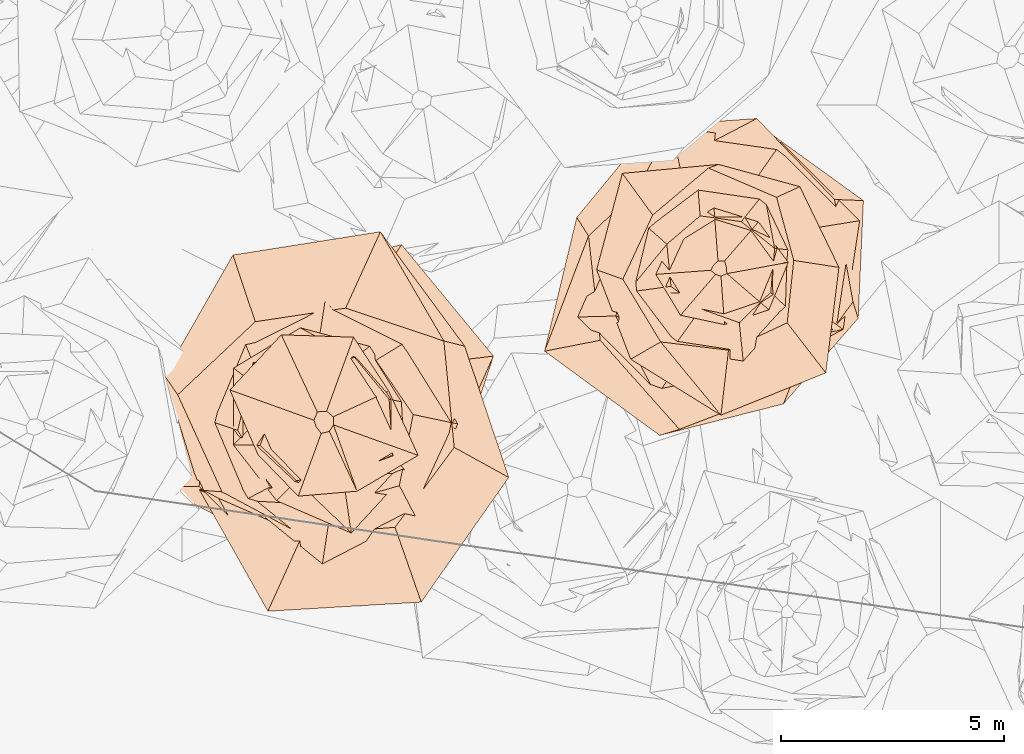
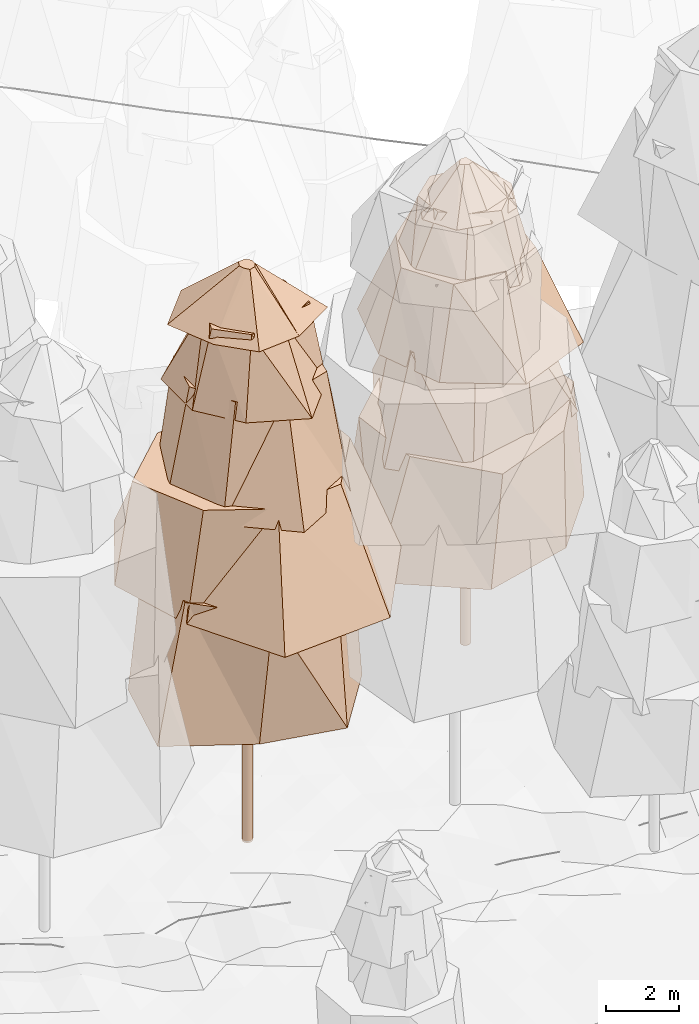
# Not in any storey, part 66 of 88: 2 geographic elements.
"""IFC4 model written with IfcOpenShell, lengths in metres."""

from ifc_helpers import new_model, si_unit, frame, origin_with_axes, place, context, subcontext, project, spatial, circle, extrude, faceted_brep, element, save


model = new_model("IFC4")

# Units and contexts
model_context = context("Model", 3, precision=1e-05, world=origin_with_axes())
body_context = subcontext(model_context, "Body", "Model", "MODEL_VIEW")
ifc_project = project(units=[si_unit("LENGTHUNIT", "METRE"), si_unit("AREAUNIT", "SQUARE_METRE"), si_unit("VOLUMEUNIT", "CUBIC_METRE"), si_unit("PLANEANGLEUNIT", "RADIAN")], contexts=[model_context])

# Sites
site_1_placement = place(None, origin_with_axes())
site_1 = spatial("IfcSite", under=ifc_project, at=site_1_placement, Name="CH907857693633", CompositionType="ELEMENT")
site_2_placement = place(None, origin_with_axes())
site_2 = spatial("IfcSite", under=site_1, at=site_2_placement, Name="Simulated_forest", CompositionType="ELEMENT")

# Geographic elements
geographic_element_1_placement = place(None, frame((201.179847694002, 78.1168843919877, 2.742919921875), z_axis=(0.0, 0.0, 1.0), x_axis=(1.0, 0.0, 0.0)))
element("IfcGeographicElement", 1, at=geographic_element_1_placement, inside=site_2, Name="Tree_SIMULATED_FOREST_DENSE", ObjectType="VEGETATION", PredefinedType="USERDEFINED", context=body_context, shape_type="Brep", body=[
    extrude(circle(Radius=0.15), origin_with_axes(), (0.0, 0.0, 1.0), 5.25416549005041),
    faceted_brep([(2.88930138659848, -1.2622847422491, 5.25416549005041), (1.27665318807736, -3.2575792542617, 5.25416549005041), (-1.18957228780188, -2.72286651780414, 5.25416549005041), (-3.65866102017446, -1.43383810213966, 5.25416549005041), (-3.0038033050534, 1.31230860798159, 5.25416549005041), (-1.2767242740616, 3.25776064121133, 5.25416549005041), (1.74221894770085, 3.98784478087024, 5.25416549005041), (3.80084577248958, 1.4895606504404, 5.25416549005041), (2.63065394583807, 1.34790703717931, 9.75740523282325), (0.850775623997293, 2.6387611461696, 9.75740523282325), (-1.45786809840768, 2.84526036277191, 9.75740523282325), (-2.62390468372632, 0.845985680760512, 9.75740523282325), (-2.79472631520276, -1.43197522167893, 9.75740523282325), (-1.02748168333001, -3.18683171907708, 9.75740523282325), (1.32399717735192, -2.58399006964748, 9.75740523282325), (2.73474883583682, -0.88172347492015, 9.75740523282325), (3.80084577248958, 1.4895606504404, 5.25416549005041), (1.74221894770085, 3.98784478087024, 5.25416549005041), (0.850775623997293, 2.6387611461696, 9.75740523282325), (2.63065394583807, 1.34790703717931, 9.75740523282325), (1.74221894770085, 3.98784478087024, 5.25416549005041), (-1.2767242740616, 3.25776064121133, 5.25416549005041), (-1.45786809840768, 2.84526036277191, 9.75740523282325), (0.850775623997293, 2.6387611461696, 9.75740523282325), (-1.2767242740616, 3.25776064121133, 5.25416549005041), (-3.0038033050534, 1.31230860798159, 5.25416549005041), (-2.62390468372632, 0.845985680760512, 9.75740523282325), (-1.45786809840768, 2.84526036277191, 9.75740523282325), (-3.0038033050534, 1.31230860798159, 5.25416549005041), (-3.65866102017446, -1.43383810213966, 5.25416549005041), (-2.79472631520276, -1.43197522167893, 9.75740523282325), (-2.62390468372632, 0.845985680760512, 9.75740523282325), (-3.65866102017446, -1.43383810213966, 5.25416549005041), (-1.18957228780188, -2.72286651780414, 5.25416549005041), (-1.02748168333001, -3.18683171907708, 9.75740523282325), (-2.79472631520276, -1.43197522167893, 9.75740523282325), (-1.18957228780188, -2.72286651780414, 5.25416549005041), (1.27665318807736, -3.2575792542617, 5.25416549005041), (1.32399717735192, -2.58399006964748, 9.75740523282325), (-1.02748168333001, -3.18683171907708, 9.75740523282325), (1.27665318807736, -3.2575792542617, 5.25416549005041), (2.88930138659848, -1.2622847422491, 5.25416549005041), (2.73474883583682, -0.88172347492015, 9.75740523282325), (1.32399717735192, -2.58399006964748, 9.75740523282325), (2.88930138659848, -1.2622847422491, 5.25416549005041), (3.80084577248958, 1.4895606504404, 5.25416549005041), (2.63065394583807, 1.34790703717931, 9.75740523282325), (2.73474883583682, -0.88172347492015, 9.75740523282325)], [[[0, 1, 2, 3, 4, 5, 6, 7]], [[8, 9, 10, 11, 12, 13, 14, 15]], [[16, 17, 18, 19]], [[20, 21, 22, 23]], [[24, 25, 26, 27]], [[28, 29, 30, 31]], [[32, 33, 34, 35]], [[36, 37, 38, 39]], [[40, 41, 42, 43]], [[44, 45, 46, 47]]]),
    faceted_brep([(4.14327498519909, -1.2285407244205, 9.08191927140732), (2.18288452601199, -4.02302657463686, 9.08191927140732), (-1.25346766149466, -4.2273415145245, 9.08191927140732), (-2.78552122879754, -1.51141710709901, 9.08191927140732), (-3.57466870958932, 1.05994077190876, 9.08191927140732), (-2.03727449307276, 3.75466925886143, 9.08191927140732), (1.26794778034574, 4.27617596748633, 9.08191927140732), (3.15534077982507, 1.71208030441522, 9.08191927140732), (2.68954318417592, 1.82875391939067, 12.7252094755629), (0.488621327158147, 2.5647814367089, 12.7252094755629), (-1.53682580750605, 2.26020534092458, 12.7252094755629), (-3.27516149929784, 0.62395716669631, 12.7252094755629), (-2.28287551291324, -1.55224038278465, 12.7252094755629), (-0.479777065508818, -2.51835776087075, 12.7252094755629), (1.59527243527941, -2.34616263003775, 12.7252094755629), (2.92068107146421, -0.556424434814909, 12.7252094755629), (3.15534077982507, 1.71208030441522, 9.08191927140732), (1.26794778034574, 4.27617596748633, 9.08191927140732), (0.488621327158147, 2.5647814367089, 12.7252094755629), (2.68954318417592, 1.82875391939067, 12.7252094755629), (1.26794778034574, 4.27617596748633, 9.08191927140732), (-2.03727449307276, 3.75466925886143, 9.08191927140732), (-1.53682580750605, 2.26020534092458, 12.7252094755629), (0.488621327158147, 2.5647814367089, 12.7252094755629), (-2.03727449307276, 3.75466925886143, 9.08191927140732), (-3.57466870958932, 1.05994077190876, 9.08191927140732), (-3.27516149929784, 0.62395716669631, 12.7252094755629), (-1.53682580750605, 2.26020534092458, 12.7252094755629), (-3.57466870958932, 1.05994077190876, 9.08191927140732), (-2.78552122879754, -1.51141710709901, 9.08191927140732), (-2.28287551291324, -1.55224038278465, 12.7252094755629), (-3.27516149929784, 0.62395716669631, 12.7252094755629), (-2.78552122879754, -1.51141710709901, 9.08191927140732), (-1.25346766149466, -4.2273415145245, 9.08191927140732), (-0.479777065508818, -2.51835776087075, 12.7252094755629), (-2.28287551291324, -1.55224038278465, 12.7252094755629), (-1.25346766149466, -4.2273415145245, 9.08191927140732), (2.18288452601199, -4.02302657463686, 9.08191927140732), (1.59527243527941, -2.34616263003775, 12.7252094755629), (-0.479777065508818, -2.51835776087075, 12.7252094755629), (2.18288452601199, -4.02302657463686, 9.08191927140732), (4.14327498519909, -1.2285407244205, 9.08191927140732), (2.92068107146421, -0.556424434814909, 12.7252094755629), (1.59527243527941, -2.34616263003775, 12.7252094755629), (4.14327498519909, -1.2285407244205, 9.08191927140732), (3.15534077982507, 1.71208030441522, 9.08191927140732), (2.68954318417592, 1.82875391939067, 12.7252094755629), (2.92068107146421, -0.556424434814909, 12.7252094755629)], [[[0, 1, 2, 3, 4, 5, 6, 7]], [[8, 9, 10, 11, 12, 13, 14, 15]], [[16, 17, 18, 19]], [[20, 21, 22, 23]], [[24, 25, 26, 27]], [[28, 29, 30, 31]], [[32, 33, 34, 35]], [[36, 37, 38, 39]], [[40, 41, 42, 43]], [[44, 45, 46, 47]]]),
    faceted_brep([(3.00187657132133, -0.0311616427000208, 12.1787159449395), (2.04741517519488, -2.09036835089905, 12.1787159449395), (-0.0328660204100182, -3.16606340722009, 12.1787159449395), (-1.78267640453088, -1.74604572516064, 12.1787159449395), (-2.53048157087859, 0.0262682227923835, 12.1787159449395), (-1.78271210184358, 1.82011201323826, 12.1787159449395), (0.0283071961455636, 2.72690081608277, 12.1787159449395), (1.85387156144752, 1.81577795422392, 12.1787159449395), (1.16520704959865, 1.39529464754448, 15.8867045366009), (-0.145957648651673, 1.62427184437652, 15.8867045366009), (-1.57459991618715, 1.31494442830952, 15.8867045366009), (-1.92952797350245, -0.173388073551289, 15.8867045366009), (-1.20299090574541, -1.44053949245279, 15.8867045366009), (0.166933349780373, -1.85769736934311, 15.8867045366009), (1.69277863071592, -1.41363517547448, 15.8867045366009), (2.00042844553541, 0.179759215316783, 15.8867045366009), (1.85387156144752, 1.81577795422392, 12.1787159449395), (0.0283071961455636, 2.72690081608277, 12.1787159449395), (-0.145957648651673, 1.62427184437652, 15.8867045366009), (1.16520704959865, 1.39529464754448, 15.8867045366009), (0.0283071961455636, 2.72690081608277, 12.1787159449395), (-1.78271210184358, 1.82011201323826, 12.1787159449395), (-1.57459991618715, 1.31494442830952, 15.8867045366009), (-0.145957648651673, 1.62427184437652, 15.8867045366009), (-1.78271210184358, 1.82011201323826, 12.1787159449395), (-2.53048157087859, 0.0262682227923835, 12.1787159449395), (-1.92952797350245, -0.173388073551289, 15.8867045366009), (-1.57459991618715, 1.31494442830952, 15.8867045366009), (-2.53048157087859, 0.0262682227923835, 12.1787159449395), (-1.78267640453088, -1.74604572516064, 12.1787159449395), (-1.20299090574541, -1.44053949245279, 15.8867045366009), (-1.92952797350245, -0.173388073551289, 15.8867045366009), (-1.78267640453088, -1.74604572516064, 12.1787159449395), (-0.0328660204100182, -3.16606340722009, 12.1787159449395), (0.166933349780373, -1.85769736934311, 15.8867045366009), (-1.20299090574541, -1.44053949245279, 15.8867045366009), (-0.0328660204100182, -3.16606340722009, 12.1787159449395), (2.04741517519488, -2.09036835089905, 12.1787159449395), (1.69277863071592, -1.41363517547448, 15.8867045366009), (0.166933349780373, -1.85769736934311, 15.8867045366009), (2.04741517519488, -2.09036835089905, 12.1787159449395), (3.00187657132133, -0.0311616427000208, 12.1787159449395), (2.00042844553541, 0.179759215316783, 15.8867045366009), (1.69277863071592, -1.41363517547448, 15.8867045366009), (3.00187657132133, -0.0311616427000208, 12.1787159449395), (1.85387156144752, 1.81577795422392, 12.1787159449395), (1.16520704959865, 1.39529464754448, 15.8867045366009), (2.00042844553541, 0.179759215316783, 15.8867045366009)], [[[0, 1, 2, 3, 4, 5, 6, 7]], [[8, 9, 10, 11, 12, 13, 14, 15]], [[16, 17, 18, 19]], [[20, 21, 22, 23]], [[24, 25, 26, 27]], [[28, 29, 30, 31]], [[32, 33, 34, 35]], [[36, 37, 38, 39]], [[40, 41, 42, 43]], [[44, 45, 46, 47]]]),
    faceted_brep([(1.85818337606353, -1.11957452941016, 15.3305062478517), (0.613861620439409, -2.47482994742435, 15.3305062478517), (-1.05537119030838, -1.75162363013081, 15.3305062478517), (-2.02570780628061, -0.502460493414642, 15.3305062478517), (-2.02500405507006, 1.22008569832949, 15.3305062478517), (-0.526752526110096, 2.12364298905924, 15.3305062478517), (1.02876173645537, 1.70745931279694, 15.3305062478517), (1.81589008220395, 0.450416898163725, 15.3305062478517), (1.46231182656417, 0.522437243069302, 17.8456498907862), (0.690919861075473, 1.45902716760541, 17.8456498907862), (-0.417370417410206, 1.16822777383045, 17.8456498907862), (-1.04801262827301, 0.496284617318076, 17.8456498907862), (-1.42790233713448, -0.510143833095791, 17.8456498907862), (-0.614494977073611, -1.29763944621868, 17.8456498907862), (0.427978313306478, -1.19791947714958, 17.8456498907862), (1.54257511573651, -0.730483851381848, 17.8456498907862), (1.81589008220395, 0.450416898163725, 15.3305062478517), (1.02876173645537, 1.70745931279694, 15.3305062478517), (0.690919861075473, 1.45902716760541, 17.8456498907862), (1.46231182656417, 0.522437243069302, 17.8456498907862), (1.02876173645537, 1.70745931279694, 15.3305062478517), (-0.526752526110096, 2.12364298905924, 15.3305062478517), (-0.417370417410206, 1.16822777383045, 17.8456498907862), (0.690919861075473, 1.45902716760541, 17.8456498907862), (-0.526752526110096, 2.12364298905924, 15.3305062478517), (-2.02500405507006, 1.22008569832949, 15.3305062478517), (-1.04801262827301, 0.496284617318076, 17.8456498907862), (-0.417370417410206, 1.16822777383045, 17.8456498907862), (-2.02500405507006, 1.22008569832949, 15.3305062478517), (-2.02570780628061, -0.502460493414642, 15.3305062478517), (-1.42790233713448, -0.510143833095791, 17.8456498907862), (-1.04801262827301, 0.496284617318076, 17.8456498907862), (-2.02570780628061, -0.502460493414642, 15.3305062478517), (-1.05537119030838, -1.75162363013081, 15.3305062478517), (-0.614494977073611, -1.29763944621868, 17.8456498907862), (-1.42790233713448, -0.510143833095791, 17.8456498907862), (-1.05537119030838, -1.75162363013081, 15.3305062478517), (0.613861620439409, -2.47482994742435, 15.3305062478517), (0.427978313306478, -1.19791947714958, 17.8456498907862), (-0.614494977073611, -1.29763944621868, 17.8456498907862), (0.613861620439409, -2.47482994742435, 15.3305062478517), (1.85818337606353, -1.11957452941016, 15.3305062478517), (1.54257511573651, -0.730483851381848, 17.8456498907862), (0.427978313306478, -1.19791947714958, 17.8456498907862), (1.85818337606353, -1.11957452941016, 15.3305062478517), (1.81589008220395, 0.450416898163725, 15.3305062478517), (1.46231182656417, 0.522437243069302, 17.8456498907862), (1.54257511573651, -0.730483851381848, 17.8456498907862)], [[[0, 1, 2, 3, 4, 5, 6, 7]], [[8, 9, 10, 11, 12, 13, 14, 15]], [[16, 17, 18, 19]], [[20, 21, 22, 23]], [[24, 25, 26, 27]], [[28, 29, 30, 31]], [[32, 33, 34, 35]], [[36, 37, 38, 39]], [[40, 41, 42, 43]], [[44, 45, 46, 47]]]),
    faceted_brep([(2.11378513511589, -0.734621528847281, 17.468378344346), (0.744536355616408, -1.53770176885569, 17.468378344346), (-0.573135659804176, -1.64912896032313, 17.468378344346), (-1.47757722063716, -0.715424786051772, 17.468378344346), (-2.10451129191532, 0.731398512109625, 17.468378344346), (-0.951811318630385, 1.96578976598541, 17.468378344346), (0.665134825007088, 1.9138454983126, 17.468378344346), (1.45460098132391, 0.704299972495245, 17.468378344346), (0.211026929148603, 0.129648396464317, 19.1838840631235), (0.0607887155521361, 0.254480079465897, 19.1838840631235), (-0.14656963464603, 0.238569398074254, 19.1838840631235), (-0.221784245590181, 0.0529785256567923, 19.1838840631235), (-0.167883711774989, -0.103142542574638, 19.1838840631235), (-0.0580486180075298, -0.243009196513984, 19.1838840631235), (0.122135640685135, -0.198798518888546, 19.1838840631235), (0.215256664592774, -0.0514192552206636, 19.1838840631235), (1.45460098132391, 0.704299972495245, 17.468378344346), (0.665134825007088, 1.9138454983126, 17.468378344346), (0.0607887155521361, 0.254480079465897, 19.1838840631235), (0.211026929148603, 0.129648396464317, 19.1838840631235), (0.665134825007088, 1.9138454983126, 17.468378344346), (-0.951811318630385, 1.96578976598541, 17.468378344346), (-0.14656963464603, 0.238569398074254, 19.1838840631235), (0.0607887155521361, 0.254480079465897, 19.1838840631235), (-0.951811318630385, 1.96578976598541, 17.468378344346), (-2.10451129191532, 0.731398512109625, 17.468378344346), (-0.221784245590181, 0.0529785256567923, 19.1838840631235), (-0.14656963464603, 0.238569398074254, 19.1838840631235), (-2.10451129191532, 0.731398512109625, 17.468378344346), (-1.47757722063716, -0.715424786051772, 17.468378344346), (-0.167883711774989, -0.103142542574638, 19.1838840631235), (-0.221784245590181, 0.0529785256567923, 19.1838840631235), (-1.47757722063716, -0.715424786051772, 17.468378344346), (-0.573135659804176, -1.64912896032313, 17.468378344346), (-0.0580486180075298, -0.243009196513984, 19.1838840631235), (-0.167883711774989, -0.103142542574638, 19.1838840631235), (-0.573135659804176, -1.64912896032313, 17.468378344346), (0.744536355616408, -1.53770176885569, 17.468378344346), (0.122135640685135, -0.198798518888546, 19.1838840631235), (-0.0580486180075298, -0.243009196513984, 19.1838840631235), (0.744536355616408, -1.53770176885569, 17.468378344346), (2.11378513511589, -0.734621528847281, 17.468378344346), (0.215256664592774, -0.0514192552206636, 19.1838840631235), (0.122135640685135, -0.198798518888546, 19.1838840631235), (2.11378513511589, -0.734621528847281, 17.468378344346), (1.45460098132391, 0.704299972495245, 17.468378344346), (0.211026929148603, 0.129648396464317, 19.1838840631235), (0.215256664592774, -0.0514192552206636, 19.1838840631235)], [[[0, 1, 2, 3, 4, 5, 6, 7]], [[8, 9, 10, 11, 12, 13, 14, 15]], [[16, 17, 18, 19]], [[20, 21, 22, 23]], [[24, 25, 26, 27]], [[28, 29, 30, 31]], [[32, 33, 34, 35]], [[36, 37, 38, 39]], [[40, 41, 42, 43]], [[44, 45, 46, 47]]]),
])
geographic_element_2_placement = place(None, frame((210.045722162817, 81.5673648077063, 4.1279296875), z_axis=(0.0, 0.0, 1.0), x_axis=(1.0, 0.0, 0.0)))
element("IfcGeographicElement", 2, at=geographic_element_2_placement, inside=site_2, Name="Tree_SIMULATED_FOREST_DENSE", ObjectType="VEGETATION", PredefinedType="USERDEFINED", context=body_context, shape_type="Brep", body=[
    extrude(circle(Radius=0.15), origin_with_axes(), (0.0, 0.0, 1.0), 4.49010721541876),
    faceted_brep([(3.1073981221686, -1.11370452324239, 4.49010721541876), (1.43208271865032, -3.03204472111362, 4.49010721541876), (-1.33967389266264, -3.73788563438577, 4.49010721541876), (-3.91845553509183, -1.8507485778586, 4.49010721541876), (-3.19837865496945, 1.14631232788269, 4.49010721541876), (-1.51048184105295, 3.19803348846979, 4.49010721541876), (1.0970954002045, 3.06105624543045, 4.49010721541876), (3.225622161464, 1.52351240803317, 4.49010721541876), (2.57728572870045, 1.54930499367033, 8.10794467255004), (0.837658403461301, 3.36258577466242, 8.10794467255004), (-1.3396096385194, 2.22845522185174, 8.10794467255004), (-2.93475410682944, 0.731080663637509, 8.10794467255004), (-2.67320119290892, -1.60696344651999, 8.10794467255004), (-0.89726451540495, -3.60186071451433, 8.10794467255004), (1.58943338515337, -2.64403974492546, 8.10794467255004), (2.9924180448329, -0.745445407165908, 8.10794467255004), (3.225622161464, 1.52351240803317, 4.49010721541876), (1.0970954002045, 3.06105624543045, 4.49010721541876), (0.837658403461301, 3.36258577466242, 8.10794467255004), (2.57728572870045, 1.54930499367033, 8.10794467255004), (1.0970954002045, 3.06105624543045, 4.49010721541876), (-1.51048184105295, 3.19803348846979, 4.49010721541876), (-1.3396096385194, 2.22845522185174, 8.10794467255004), (0.837658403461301, 3.36258577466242, 8.10794467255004), (-1.51048184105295, 3.19803348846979, 4.49010721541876), (-3.19837865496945, 1.14631232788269, 4.49010721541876), (-2.93475410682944, 0.731080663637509, 8.10794467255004), (-1.3396096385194, 2.22845522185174, 8.10794467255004), (-3.19837865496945, 1.14631232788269, 4.49010721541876), (-3.91845553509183, -1.8507485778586, 4.49010721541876), (-2.67320119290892, -1.60696344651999, 8.10794467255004), (-2.93475410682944, 0.731080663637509, 8.10794467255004), (-3.91845553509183, -1.8507485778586, 4.49010721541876), (-1.33967389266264, -3.73788563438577, 4.49010721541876), (-0.89726451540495, -3.60186071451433, 8.10794467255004), (-2.67320119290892, -1.60696344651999, 8.10794467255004), (-1.33967389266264, -3.73788563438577, 4.49010721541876), (1.43208271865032, -3.03204472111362, 4.49010721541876), (1.58943338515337, -2.64403974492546, 8.10794467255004), (-0.89726451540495, -3.60186071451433, 8.10794467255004), (1.43208271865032, -3.03204472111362, 4.49010721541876), (3.1073981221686, -1.11370452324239, 4.49010721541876), (2.9924180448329, -0.745445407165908, 8.10794467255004), (1.58943338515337, -2.64403974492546, 8.10794467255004), (3.1073981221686, -1.11370452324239, 4.49010721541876), (3.225622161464, 1.52351240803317, 4.49010721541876), (2.57728572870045, 1.54930499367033, 8.10794467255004), (2.9924180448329, -0.745445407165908, 8.10794467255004)], [[[0, 1, 2, 3, 4, 5, 6, 7]], [[8, 9, 10, 11, 12, 13, 14, 15]], [[16, 17, 18, 19]], [[20, 21, 22, 23]], [[24, 25, 26, 27]], [[28, 29, 30, 31]], [[32, 33, 34, 35]], [[36, 37, 38, 39]], [[40, 41, 42, 43]], [[44, 45, 46, 47]]]),
    faceted_brep([(2.77106902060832, -1.36018005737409, 7.56526905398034), (0.823030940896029, -2.40993154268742, 7.56526905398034), (-1.40939353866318, -2.87133071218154, 7.56526905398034), (-3.17667885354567, -1.08488765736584, 7.56526905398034), (-2.22396570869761, 1.09163423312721, 7.56526905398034), (-1.08646301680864, 3.18129169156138, 7.56526905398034), (1.38622176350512, 2.82412329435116, 7.56526905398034), (3.14153243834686, 1.07288458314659, 7.56526905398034), (1.91300401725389, 0.875254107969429, 11.1234682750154), (0.670743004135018, 1.80217277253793, 11.1234682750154), (-0.736114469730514, 1.60889269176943, 11.1234682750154), (-1.83284974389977, 0.682160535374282, 11.1234682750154), (-2.32234808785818, -1.06254073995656, 11.1234682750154), (-0.612842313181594, -1.64660342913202, 11.1234682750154), (0.828927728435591, -1.81175050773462, 11.1234682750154), (1.8247772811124, -0.679156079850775, 11.1234682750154), (3.14153243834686, 1.07288458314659, 7.56526905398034), (1.38622176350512, 2.82412329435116, 7.56526905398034), (0.670743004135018, 1.80217277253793, 11.1234682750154), (1.91300401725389, 0.875254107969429, 11.1234682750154), (1.38622176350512, 2.82412329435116, 7.56526905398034), (-1.08646301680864, 3.18129169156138, 7.56526905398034), (-0.736114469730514, 1.60889269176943, 11.1234682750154), (0.670743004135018, 1.80217277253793, 11.1234682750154), (-1.08646301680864, 3.18129169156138, 7.56526905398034), (-2.22396570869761, 1.09163423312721, 7.56526905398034), (-1.83284974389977, 0.682160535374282, 11.1234682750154), (-0.736114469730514, 1.60889269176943, 11.1234682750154), (-2.22396570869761, 1.09163423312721, 7.56526905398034), (-3.17667885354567, -1.08488765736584, 7.56526905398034), (-2.32234808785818, -1.06254073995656, 11.1234682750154), (-1.83284974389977, 0.682160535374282, 11.1234682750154), (-3.17667885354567, -1.08488765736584, 7.56526905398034), (-1.40939353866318, -2.87133071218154, 7.56526905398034), (-0.612842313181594, -1.64660342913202, 11.1234682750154), (-2.32234808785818, -1.06254073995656, 11.1234682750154), (-1.40939353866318, -2.87133071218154, 7.56526905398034), (0.823030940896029, -2.40993154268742, 7.56526905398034), (0.828927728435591, -1.81175050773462, 11.1234682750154), (-0.612842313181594, -1.64660342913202, 11.1234682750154), (0.823030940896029, -2.40993154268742, 7.56526905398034), (2.77106902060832, -1.36018005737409, 7.56526905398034), (1.8247772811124, -0.679156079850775, 11.1234682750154), (0.828927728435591, -1.81175050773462, 11.1234682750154), (2.77106902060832, -1.36018005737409, 7.56526905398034), (3.14153243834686, 1.07288458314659, 7.56526905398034), (1.91300401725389, 0.875254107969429, 11.1234682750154), (1.8247772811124, -0.679156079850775, 11.1234682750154)], [[[0, 1, 2, 3, 4, 5, 6, 7]], [[8, 9, 10, 11, 12, 13, 14, 15]], [[16, 17, 18, 19]], [[20, 21, 22, 23]], [[24, 25, 26, 27]], [[28, 29, 30, 31]], [[32, 33, 34, 35]], [[36, 37, 38, 39]], [[40, 41, 42, 43]], [[44, 45, 46, 47]]]),
    faceted_brep([(2.38299691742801, -2.33634354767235, 10.5897383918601), (0.0324655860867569, -3.28413906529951, 10.5897383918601), (-1.99043627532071, -2.03018238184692, 10.5897383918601), (-2.75329732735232, -0.0272179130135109, 10.5897383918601), (-2.17672978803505, 2.13411463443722, 10.5897383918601), (-0.0230760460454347, 2.33431622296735, 10.5897383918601), (1.80033223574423, 1.83628224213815, 10.5897383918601), (2.67631761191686, 0.0264569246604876, 10.5897383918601), (1.66415704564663, 0.183605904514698, 13.3972276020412), (1.27949204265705, 1.59683642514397, 13.3972276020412), (-0.248534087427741, 2.25264952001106, 13.3972276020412), (-1.49714447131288, 1.19961218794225, 13.3972276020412), (-2.16650787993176, -0.239030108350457, 13.3972276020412), (-1.31712407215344, -1.64380209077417, 13.3972276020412), (0.20172846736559, -1.82841532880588, 13.3972276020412), (1.51680188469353, -1.21536302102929, 13.3972276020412), (2.67631761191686, 0.0264569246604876, 10.5897383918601), (1.80033223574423, 1.83628224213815, 10.5897383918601), (1.27949204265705, 1.59683642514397, 13.3972276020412), (1.66415704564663, 0.183605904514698, 13.3972276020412), (1.80033223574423, 1.83628224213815, 10.5897383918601), (-0.0230760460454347, 2.33431622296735, 10.5897383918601), (-0.248534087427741, 2.25264952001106, 13.3972276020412), (1.27949204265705, 1.59683642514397, 13.3972276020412), (-0.0230760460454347, 2.33431622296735, 10.5897383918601), (-2.17672978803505, 2.13411463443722, 10.5897383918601), (-1.49714447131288, 1.19961218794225, 13.3972276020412), (-0.248534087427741, 2.25264952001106, 13.3972276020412), (-2.17672978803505, 2.13411463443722, 10.5897383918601), (-2.75329732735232, -0.0272179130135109, 10.5897383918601), (-2.16650787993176, -0.239030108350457, 13.3972276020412), (-1.49714447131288, 1.19961218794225, 13.3972276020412), (-2.75329732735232, -0.0272179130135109, 10.5897383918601), (-1.99043627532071, -2.03018238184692, 10.5897383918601), (-1.31712407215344, -1.64380209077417, 13.3972276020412), (-2.16650787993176, -0.239030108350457, 13.3972276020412), (-1.99043627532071, -2.03018238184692, 10.5897383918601), (0.0324655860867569, -3.28413906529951, 10.5897383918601), (0.20172846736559, -1.82841532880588, 13.3972276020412), (-1.31712407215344, -1.64380209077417, 13.3972276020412), (0.0324655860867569, -3.28413906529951, 10.5897383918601), (2.38299691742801, -2.33634354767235, 10.5897383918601), (1.51680188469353, -1.21536302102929, 13.3972276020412), (0.20172846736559, -1.82841532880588, 13.3972276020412), (2.38299691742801, -2.33634354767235, 10.5897383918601), (2.67631761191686, 0.0264569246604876, 10.5897383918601), (1.66415704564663, 0.183605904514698, 13.3972276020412), (1.51680188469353, -1.21536302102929, 13.3972276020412)], [[[0, 1, 2, 3, 4, 5, 6, 7]], [[8, 9, 10, 11, 12, 13, 14, 15]], [[16, 17, 18, 19]], [[20, 21, 22, 23]], [[24, 25, 26, 27]], [[28, 29, 30, 31]], [[32, 33, 34, 35]], [[36, 37, 38, 39]], [[40, 41, 42, 43]], [[44, 45, 46, 47]]]),
    faceted_brep([(1.5656576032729, -0.92602683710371, 12.9761042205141), (0.531602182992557, -2.07085862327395, 12.9761042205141), (-1.0804848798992, -1.82680382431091, 12.9761042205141), (-2.06160994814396, -0.529227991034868, 12.9761042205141), (-1.69395658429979, 1.00191079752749, 12.9761042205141), (-0.490739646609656, 1.91167843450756, 12.9761042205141), (1.00140590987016, 1.69310295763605, 12.9761042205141), (1.61081241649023, 0.413505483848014, 12.9761042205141), (1.23617679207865, 0.453034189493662, 14.9811622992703), (0.487921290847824, 1.05242902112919, 14.9811622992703), (-0.433371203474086, 1.18252316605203, 14.9811622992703), (-1.17918547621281, 0.546687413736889, 14.9811622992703), (-1.08742686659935, -0.398520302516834, 14.9811622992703), (-0.41832817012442, -0.90231911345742, 14.9811622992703), (0.444152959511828, -1.21194292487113, 14.9811622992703), (1.14919899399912, -0.532785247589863, 14.9811622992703), (1.61081241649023, 0.413505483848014, 12.9761042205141), (1.00140590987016, 1.69310295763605, 12.9761042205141), (0.487921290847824, 1.05242902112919, 14.9811622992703), (1.23617679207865, 0.453034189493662, 14.9811622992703), (1.00140590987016, 1.69310295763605, 12.9761042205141), (-0.490739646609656, 1.91167843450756, 12.9761042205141), (-0.433371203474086, 1.18252316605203, 14.9811622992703), (0.487921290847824, 1.05242902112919, 14.9811622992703), (-0.490739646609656, 1.91167843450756, 12.9761042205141), (-1.69395658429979, 1.00191079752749, 12.9761042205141), (-1.17918547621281, 0.546687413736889, 14.9811622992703), (-0.433371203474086, 1.18252316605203, 14.9811622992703), (-1.69395658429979, 1.00191079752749, 12.9761042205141), (-2.06160994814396, -0.529227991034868, 12.9761042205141), (-1.08742686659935, -0.398520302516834, 14.9811622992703), (-1.17918547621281, 0.546687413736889, 14.9811622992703), (-2.06160994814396, -0.529227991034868, 12.9761042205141), (-1.0804848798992, -1.82680382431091, 12.9761042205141), (-0.41832817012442, -0.90231911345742, 14.9811622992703), (-1.08742686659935, -0.398520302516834, 14.9811622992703), (-1.0804848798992, -1.82680382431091, 12.9761042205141), (0.531602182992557, -2.07085862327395, 12.9761042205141), (0.444152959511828, -1.21194292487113, 14.9811622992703), (-0.41832817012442, -0.90231911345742, 14.9811622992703), (0.531602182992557, -2.07085862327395, 12.9761042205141), (1.5656576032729, -0.92602683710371, 12.9761042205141), (1.14919899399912, -0.532785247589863, 14.9811622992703), (0.444152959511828, -1.21194292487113, 14.9811622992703), (1.5656576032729, -0.92602683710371, 12.9761042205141), (1.61081241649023, 0.413505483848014, 12.9761042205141), (1.23617679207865, 0.453034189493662, 14.9811622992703), (1.14919899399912, -0.532785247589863, 14.9811622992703)], [[[0, 1, 2, 3, 4, 5, 6, 7]], [[8, 9, 10, 11, 12, 13, 14, 15]], [[16, 17, 18, 19]], [[20, 21, 22, 23]], [[24, 25, 26, 27]], [[28, 29, 30, 31]], [[32, 33, 34, 35]], [[36, 37, 38, 39]], [[40, 41, 42, 43]], [[44, 45, 46, 47]]]),
    faceted_brep([(1.10762673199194, -0.923263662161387, 14.6804035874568), (0.113995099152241, -1.25573712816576, 14.6804035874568), (-0.87204153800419, -1.04617625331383, 14.6804035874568), (-1.42734092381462, -0.129573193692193, 14.6804035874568), (-0.98865899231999, 0.824097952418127, 14.6804035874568), (-0.123444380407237, 1.3598276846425, 14.6804035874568), (0.872843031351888, 1.0471377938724, 14.6804035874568), (1.54010962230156, 0.139810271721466, 14.6804035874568), (0.152583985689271, 0.0294290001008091, 16.0379631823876), (0.115168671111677, 0.170209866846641, 16.0379631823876), (-0.0333415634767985, 0.172869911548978, 16.0379631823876), (-0.12552395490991, 0.0849329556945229, 16.0379631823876), (-0.197767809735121, -0.0381436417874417, 16.0379631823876), (-0.0867945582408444, -0.128275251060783, 16.0379631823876), (0.0330279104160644, -0.171243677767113, 16.0379631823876), (0.166707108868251, -0.11279860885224, 16.0379631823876), (1.54010962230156, 0.139810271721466, 14.6804035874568), (0.872843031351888, 1.0471377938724, 14.6804035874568), (0.115168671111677, 0.170209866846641, 16.0379631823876), (0.152583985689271, 0.0294290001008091, 16.0379631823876), (0.872843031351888, 1.0471377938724, 14.6804035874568), (-0.123444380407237, 1.3598276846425, 14.6804035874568), (-0.0333415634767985, 0.172869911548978, 16.0379631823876), (0.115168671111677, 0.170209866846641, 16.0379631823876), (-0.123444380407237, 1.3598276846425, 14.6804035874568), (-0.98865899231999, 0.824097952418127, 14.6804035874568), (-0.12552395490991, 0.0849329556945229, 16.0379631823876), (-0.0333415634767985, 0.172869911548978, 16.0379631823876), (-0.98865899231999, 0.824097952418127, 14.6804035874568), (-1.42734092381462, -0.129573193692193, 14.6804035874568), (-0.197767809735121, -0.0381436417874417, 16.0379631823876), (-0.12552395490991, 0.0849329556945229, 16.0379631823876), (-1.42734092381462, -0.129573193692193, 14.6804035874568), (-0.87204153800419, -1.04617625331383, 14.6804035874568), (-0.0867945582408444, -0.128275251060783, 16.0379631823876), (-0.197767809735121, -0.0381436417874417, 16.0379631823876), (-0.87204153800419, -1.04617625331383, 14.6804035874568), (0.113995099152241, -1.25573712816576, 14.6804035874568), (0.0330279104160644, -0.171243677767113, 16.0379631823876), (-0.0867945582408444, -0.128275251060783, 16.0379631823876), (0.113995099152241, -1.25573712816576, 14.6804035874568), (1.10762673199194, -0.923263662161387, 14.6804035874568), (0.166707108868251, -0.11279860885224, 16.0379631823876), (0.0330279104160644, -0.171243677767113, 16.0379631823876), (1.10762673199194, -0.923263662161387, 14.6804035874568), (1.54010962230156, 0.139810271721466, 14.6804035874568), (0.152583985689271, 0.0294290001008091, 16.0379631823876), (0.166707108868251, -0.11279860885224, 16.0379631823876)], [[[0, 1, 2, 3, 4, 5, 6, 7]], [[8, 9, 10, 11, 12, 13, 14, 15]], [[16, 17, 18, 19]], [[20, 21, 22, 23]], [[24, 25, 26, 27]], [[28, 29, 30, 31]], [[32, 33, 34, 35]], [[36, 37, 38, 39]], [[40, 41, 42, 43]], [[44, 45, 46, 47]]]),
])

save(model, "model.ifc")
